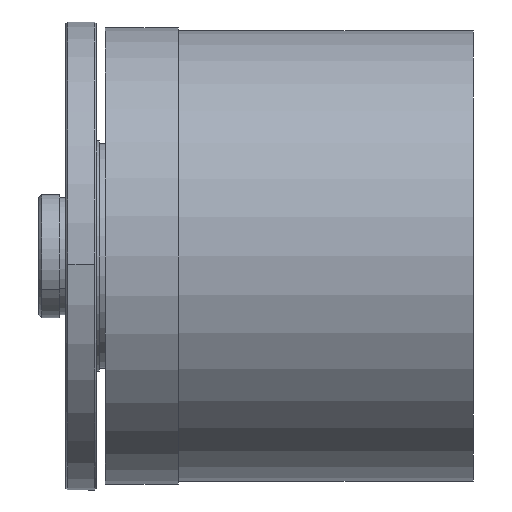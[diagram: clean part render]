
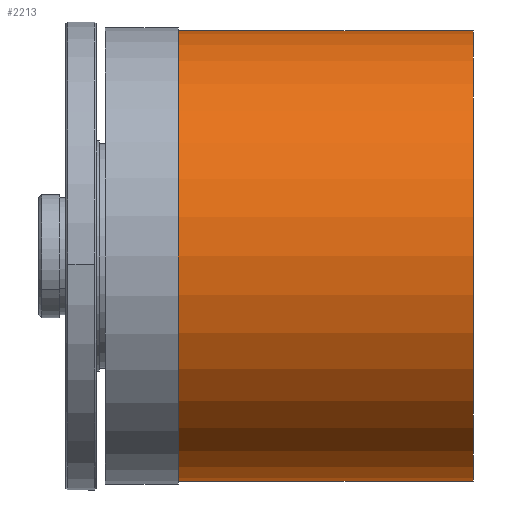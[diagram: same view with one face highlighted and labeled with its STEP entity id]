
A CAD part, left-side view. The second image highlights one B-rep face of the part: STEP entity #2213.
In plain terms, the highlighted cylindrical face has radius 37 mm (diameter 74 mm), a partial arc.
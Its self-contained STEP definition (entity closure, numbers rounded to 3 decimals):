
#2 = CIRCLE ( 'NONE', #2079, 37. ) ;
#29 = CARTESIAN_POINT ( 'NONE',  ( 0., 48.5, -37. ) ) ;
#70 = CIRCLE ( 'NONE', #1251, 37. ) ;
#84 = VERTEX_POINT ( 'NONE', #1344 ) ;
#249 = DIRECTION ( 'NONE',  ( 0., -1., 0. ) ) ;
#323 = VECTOR ( 'NONE', #817, 1000. ) ;
#351 = EDGE_CURVE ( 'NONE', #84, #2442, #70, .T. ) ;
#414 = FACE_OUTER_BOUND ( 'NONE', #2522, .T. ) ;
#441 = ORIENTED_EDGE ( 'NONE', *, *, #1650, .F. ) ;
#531 = CARTESIAN_POINT ( 'NONE',  ( 0., 0., -37. ) ) ;
#620 = CARTESIAN_POINT ( 'NONE',  ( 0., 48.5, 0. ) ) ;
#625 = LINE ( 'NONE', #799, #323 ) ;
#650 = CARTESIAN_POINT ( 'NONE',  ( 0., 0., 0. ) ) ;
#799 = CARTESIAN_POINT ( 'NONE',  ( 0., 0., 37. ) ) ;
#817 = DIRECTION ( 'NONE',  ( 0., -1., 0. ) ) ;
#837 = VERTEX_POINT ( 'NONE', #531 ) ;
#865 = VERTEX_POINT ( 'NONE', #893 ) ;
#893 = CARTESIAN_POINT ( 'NONE',  ( 0., 0., 37. ) ) ;
#1017 = DIRECTION ( 'NONE',  ( 0., -1., 0. ) ) ;
#1039 = CARTESIAN_POINT ( 'NONE',  ( 0., 0., -37. ) ) ;
#1085 = LINE ( 'NONE', #1039, #1467 ) ;
#1157 = ORIENTED_EDGE ( 'NONE', *, *, #1634, .F. ) ;
#1187 = EDGE_CURVE ( 'NONE', #2442, #837, #1085, .T. ) ;
#1251 = AXIS2_PLACEMENT_3D ( 'NONE', #620, #1994, #2191 ) ;
#1344 = CARTESIAN_POINT ( 'NONE',  ( 0., 48.5, 37. ) ) ;
#1378 = CYLINDRICAL_SURFACE ( 'NONE', #1566, 37. ) ;
#1389 = DIRECTION ( 'NONE',  ( 0., 0., -1. ) ) ;
#1467 = VECTOR ( 'NONE', #2209, 1000. ) ;
#1566 = AXIS2_PLACEMENT_3D ( 'NONE', #650, #249, #2173 ) ;
#1634 = EDGE_CURVE ( 'NONE', #84, #865, #625, .T. ) ;
#1650 = EDGE_CURVE ( 'NONE', #865, #837, #2, .T. ) ;
#1800 = CARTESIAN_POINT ( 'NONE',  ( 0., 0., 0. ) ) ;
#1867 = ORIENTED_EDGE ( 'NONE', *, *, #1187, .T. ) ;
#1994 = DIRECTION ( 'NONE',  ( 0., -1., 0. ) ) ;
#2079 = AXIS2_PLACEMENT_3D ( 'NONE', #1800, #1017, #1389 ) ;
#2173 = DIRECTION ( 'NONE',  ( 0., 0., -1. ) ) ;
#2191 = DIRECTION ( 'NONE',  ( 0., 0., -1. ) ) ;
#2209 = DIRECTION ( 'NONE',  ( 0., -1., 0. ) ) ;
#2213 = ADVANCED_FACE ( 'NONE', ( #414 ), #1378, .T. ) ;
#2265 = ORIENTED_EDGE ( 'NONE', *, *, #351, .T. ) ;
#2442 = VERTEX_POINT ( 'NONE', #29 ) ;
#2522 = EDGE_LOOP ( 'NONE', ( #1157, #2265, #1867, #441 ) ) ;
